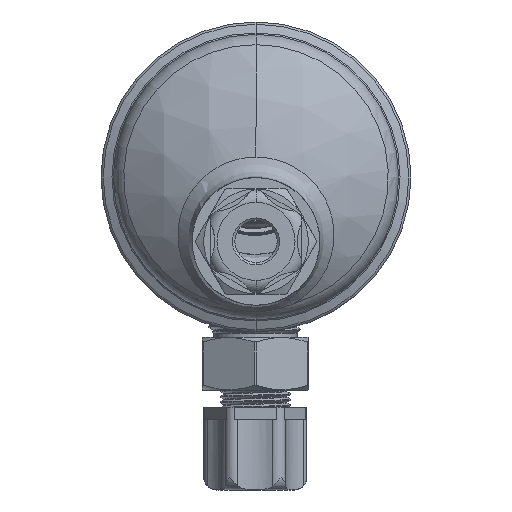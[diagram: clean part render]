
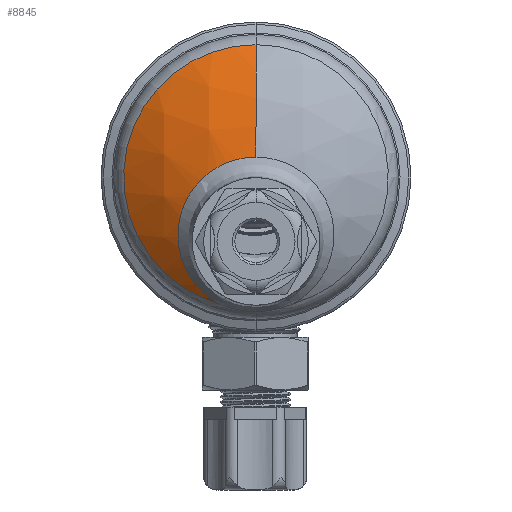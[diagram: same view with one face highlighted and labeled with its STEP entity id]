
A CAD part, front view. The second image highlights one B-rep face of the part: STEP entity #8845.
In plain terms, the highlighted spherical face has radius 47.161 mm.
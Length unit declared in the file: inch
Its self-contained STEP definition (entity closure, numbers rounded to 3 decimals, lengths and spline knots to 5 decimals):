
#210 = AXIS2_PLACEMENT_3D ( 'NONE', #15006, #11253, #39852 ) ;
#1983 = DIRECTION ( 'NONE',  ( 0., 0., 1. ) ) ;
#2820 = CARTESIAN_POINT ( 'NONE',  ( 2.08283, 1.55739, -0.95934 ) ) ;
#3002 = CARTESIAN_POINT ( 'NONE',  ( 1.92473, 1.38631, -0.43252 ) ) ;
#3182 = CARTESIAN_POINT ( 'NONE',  ( 2.16236, 1.25506, 0.0104 ) ) ;
#3352 = CARTESIAN_POINT ( 'NONE',  ( 2.6115, 1.20836, 0.17604 ) ) ;
#6974 = CARTESIAN_POINT ( 'NONE',  ( 2.04771, 1.54187, -0.91388 ) ) ;
#7144 = CARTESIAN_POINT ( 'NONE',  ( 1.94718, 1.35265, -0.32215 ) ) ;
#7318 = CARTESIAN_POINT ( 'NONE',  ( 2.23934, 1.23854, 0.06849 ) ) ;
#8845 = ADVANCED_FACE ( 'NONE', ( #52869 ), #27202, .T. ) ;
#10051 = CARTESIAN_POINT ( 'NONE',  ( 2.6115, 3.05673, 0. ) ) ;
#11110 = CARTESIAN_POINT ( 'NONE',  ( 1.99785, 1.51481, -0.83361 ) ) ;
#11253 = DIRECTION ( 'NONE',  ( 1., 0., 0. ) ) ;
#11296 = CARTESIAN_POINT ( 'NONE',  ( 1.98041, 1.32611, -0.23345 ) ) ;
#11466 = CARTESIAN_POINT ( 'NONE',  ( 2.30791, 1.22795, 0.10604 ) ) ;
#12008 = CARTESIAN_POINT ( 'NONE',  ( 2.6115, 1.20836, 0.17604 ) ) ;
#13224 = EDGE_LOOP ( 'NONE', ( #18238, #31750, #44576 ) ) ;
#14150 = DIRECTION ( 'NONE',  ( 0., 0., -1. ) ) ;
#15006 = CARTESIAN_POINT ( 'NONE',  ( 2.6115, 3.05673, 0. ) ) ;
#15058 = CARTESIAN_POINT ( 'NONE',  ( 2.25737, 1.60957, -1.10876 ) ) ;
#15095 = CIRCLE ( 'NONE', #38532, 1.85673 ) ;
#15232 = CARTESIAN_POINT ( 'NONE',  ( 1.96762, 1.49211, -0.76501 ) ) ;
#15413 = CARTESIAN_POINT ( 'NONE',  ( 2.00589, 1.3109, -0.18208 ) ) ;
#15596 = CARTESIAN_POINT ( 'NONE',  ( 2.3619, 1.22132, 0.12965 ) ) ;
#18238 = ORIENTED_EDGE ( 'NONE', *, *, #25094, .F. ) ;
#19162 = CARTESIAN_POINT ( 'NONE',  ( 2.17894, 1.58999, -1.05328 ) ) ;
#19339 = CARTESIAN_POINT ( 'NONE',  ( 1.94929, 1.47461, -0.71149 ) ) ;
#19514 = CARTESIAN_POINT ( 'NONE',  ( 2.04541, 1.29185, -0.11717 ) ) ;
#19689 = CARTESIAN_POINT ( 'NONE',  ( 2.4549, 1.21306, 0.1592 ) ) ;
#19810 = VERTEX_POINT ( 'NONE', #12008 ) ;
#23265 = CARTESIAN_POINT ( 'NONE',  ( 2.13547, 1.57672, -1.01528 ) ) ;
#23451 = CARTESIAN_POINT ( 'NONE',  ( 1.92795, 1.44507, -0.61993 ) ) ;
#23623 = CARTESIAN_POINT ( 'NONE',  ( 2.10634, 1.27046, -0.04327 ) ) ;
#23789 = CARTESIAN_POINT ( 'NONE',  ( 2.53276, 1.20954, 0.17182 ) ) ;
#25094 = EDGE_CURVE ( 'NONE', #45918, #19810, #15095, .T. ) ;
#26587 = DIRECTION ( 'NONE',  ( 0., -1., 0. ) ) ;
#27202 = SPHERICAL_SURFACE ( 'NONE', #210, 1.85673 ) ;
#27434 = CARTESIAN_POINT ( 'NONE',  ( 2.09535, 1.56237, -0.97381 ) ) ;
#27599 = CARTESIAN_POINT ( 'NONE',  ( 1.91988, 1.40977, -0.50814 ) ) ;
#27758 = CARTESIAN_POINT ( 'NONE',  ( 2.14785, 1.25871, -0.00237 ) ) ;
#27934 = CARTESIAN_POINT ( 'NONE',  ( 2.59188, 1.20836, 0.17604 ) ) ;
#27991 = B_SPLINE_CURVE_WITH_KNOTS ( 'NONE', 3,
 ( #39549, #15058, #43691, #19162, #47845, #23265, #51986, #27434, #2820, #31514, #6974, #35612, #11110, #39727, #15232, #43869, #19339, #48020, #23451, #52164, #27599, #3002, #31698, #7144, #35788, #11296, #39901, #15413, #44051, #19514, #48189, #23623, #52345, #27758, #3182, #31891, #7318, #35965, #11466, #40089, #15596, #44215, #19689, #48367, #23789, #52514, #27934, #3352 ),
 .UNSPECIFIED., .F., .F.,
 ( 4, 2, 2, 2, 2, 2, 2, 2, 2, 2, 2, 2, 2, 2, 2, 2, 2, 2, 2, 2, 2, 2, 2, 4 ),
 ( 0.04869, 0.05168, 0.05318, 0.05468, 0.05618, 0.05767, 0.06067, 0.06217, 0.06367, 0.06666, 0.06966, 0.07265, 0.07565, 0.07715, 0.07865, 0.08164, 0.08314, 0.08464, 0.08763, 0.08913, 0.09063, 0.09363, 0.09512, 0.09662 ),
 .UNSPECIFIED. ) ;
#31514 = CARTESIAN_POINT ( 'NONE',  ( 2.05902, 1.54715, -0.92939 ) ) ;
#31698 = CARTESIAN_POINT ( 'NONE',  ( 1.93024, 1.37487, -0.39525 ) ) ;
#31750 = ORIENTED_EDGE ( 'NONE', *, *, #44377, .T. ) ;
#31891 = CARTESIAN_POINT ( 'NONE',  ( 2.20737, 1.24469, 0.04678 ) ) ;
#33525 = VERTEX_POINT ( 'NONE', #39947 ) ;
#34308 = EDGE_CURVE ( 'NONE', #33525, #19810, #27991, .T. ) ;
#35508 = AXIS2_PLACEMENT_3D ( 'NONE', #51134, #26587, #1983 ) ;
#35612 = CARTESIAN_POINT ( 'NONE',  ( 2.01607, 1.52583, -0.8665 ) ) ;
#35788 = CARTESIAN_POINT ( 'NONE',  ( 1.95861, 1.34185, -0.28626 ) ) ;
#35965 = CARTESIAN_POINT ( 'NONE',  ( 2.29033, 1.23046, 0.09712 ) ) ;
#37952 = CIRCLE ( 'NONE', #35508, 1.17123 ) ;
#38532 = AXIS2_PLACEMENT_3D ( 'NONE', #10051, #38650, #14150 ) ;
#38605 = CARTESIAN_POINT ( 'NONE',  ( 2.6115, 1.61601, 1.17123 ) ) ;
#38650 = DIRECTION ( 'NONE',  ( 1., 0., 0. ) ) ;
#39549 = CARTESIAN_POINT ( 'NONE',  ( 2.29192, 1.61601, -1.12679 ) ) ;
#39727 = CARTESIAN_POINT ( 'NONE',  ( 1.97466, 1.49784, -0.78239 ) ) ;
#39852 = DIRECTION ( 'NONE',  ( 0., 0., -1. ) ) ;
#39901 = CARTESIAN_POINT ( 'NONE',  ( 1.98848, 1.32092, -0.21599 ) ) ;
#39947 = CARTESIAN_POINT ( 'NONE',  ( 2.29192, 1.61601, -1.12679 ) ) ;
#40089 = CARTESIAN_POINT ( 'NONE',  ( 2.34374, 1.22338, 0.12232 ) ) ;
#43691 = CARTESIAN_POINT ( 'NONE',  ( 2.22485, 1.60223, -1.08809 ) ) ;
#43869 = CARTESIAN_POINT ( 'NONE',  ( 1.95494, 1.48051, -0.72959 ) ) ;
#44051 = CARTESIAN_POINT ( 'NONE',  ( 2.01527, 1.30603, -0.16554 ) ) ;
#44215 = CARTESIAN_POINT ( 'NONE',  ( 2.41712, 1.21583, 0.14927 ) ) ;
#44377 = EDGE_CURVE ( 'NONE', #45918, #33525, #37952, .T. ) ;
#44576 = ORIENTED_EDGE ( 'NONE', *, *, #34308, .T. ) ;
#45918 = VERTEX_POINT ( 'NONE', #38605 ) ;
#47845 = CARTESIAN_POINT ( 'NONE',  ( 2.16413, 1.5857, -1.04104 ) ) ;
#48020 = CARTESIAN_POINT ( 'NONE',  ( 1.93463, 1.45687, -0.65675 ) ) ;
#48189 = CARTESIAN_POINT ( 'NONE',  ( 2.06813, 1.28296, -0.08658 ) ) ;
#48367 = CARTESIAN_POINT ( 'NONE',  ( 2.51303, 1.21025, 0.16927 ) ) ;
#51134 = CARTESIAN_POINT ( 'NONE',  ( 2.6115, 1.61601, 0. ) ) ;
#51986 = CARTESIAN_POINT ( 'NONE',  ( 2.12164, 1.57202, -1.00176 ) ) ;
#52164 = CARTESIAN_POINT ( 'NONE',  ( 1.92058, 1.42152, -0.54562 ) ) ;
#52345 = CARTESIAN_POINT ( 'NONE',  ( 2.11983, 1.26641, -0.0292 ) ) ;
#52514 = CARTESIAN_POINT ( 'NONE',  ( 2.5722, 1.2086, 0.1752 ) ) ;
#52869 = FACE_OUTER_BOUND ( 'NONE', #13224, .T. ) ;
